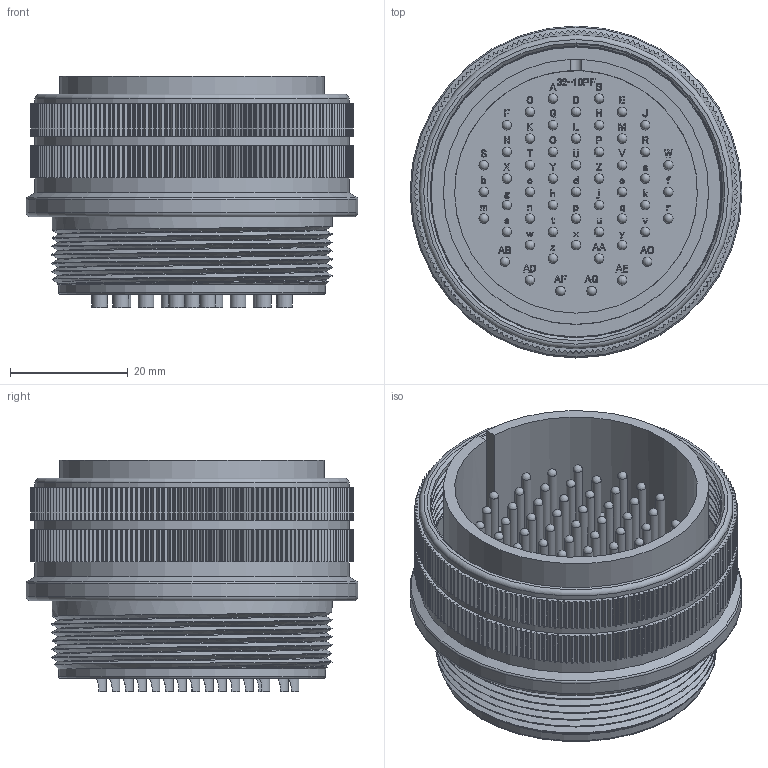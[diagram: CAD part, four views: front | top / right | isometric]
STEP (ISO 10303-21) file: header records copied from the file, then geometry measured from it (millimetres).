
FILE_DESCRIPTION (( 'STEP AP203' ), '1' );
FILE_NAME ('DMS3106A32A-10P(D190).STEP', '2021-03-04T10:31:16', ( '' ), ( '' ), 'SwSTEP 2.0', 'SolidWorks 2018', '' );
FILE_SCHEMA (( 'CONFIG_CONTROL_DESIGN' ));
Length unit declared in the file: millimetre
Products named in the file (1): DMS3106A32A-10P(D190)
Bounding box: 56.28 x 56.28 x 39.17 mm (x, y, z)
Volume: 38796.1 mm3; surface area: 34786.2 mm2
Topology: 1 solids, 1 shells, 5306 faces, 15061 edges, 9965 vertices
Faces by surface type: plane 2440, cylinder 1748, bspline 1001, cone 57, sphere 54, torus 6
Full cylindrical faces by diameter (mm): 1.59 x54, 38.1 x1, 41.15 x1, 42.95 x1, 45.3 x1, 47.5 x1, 48.34 x1, 49.15 x1, 49.35 x1, 50.02 x1, 53.24 x3, 56.28 x1
Entity records: 202959 total; most frequent: CARTESIAN_POINT 70984, ORIENTED_EDGE 29408, DIRECTION 24419, EDGE_CURVE 14704, VERTEX_POINT 9846, VECTOR 9023, LINE 9023, AXIS2_PLACEMENT_3D 7698
